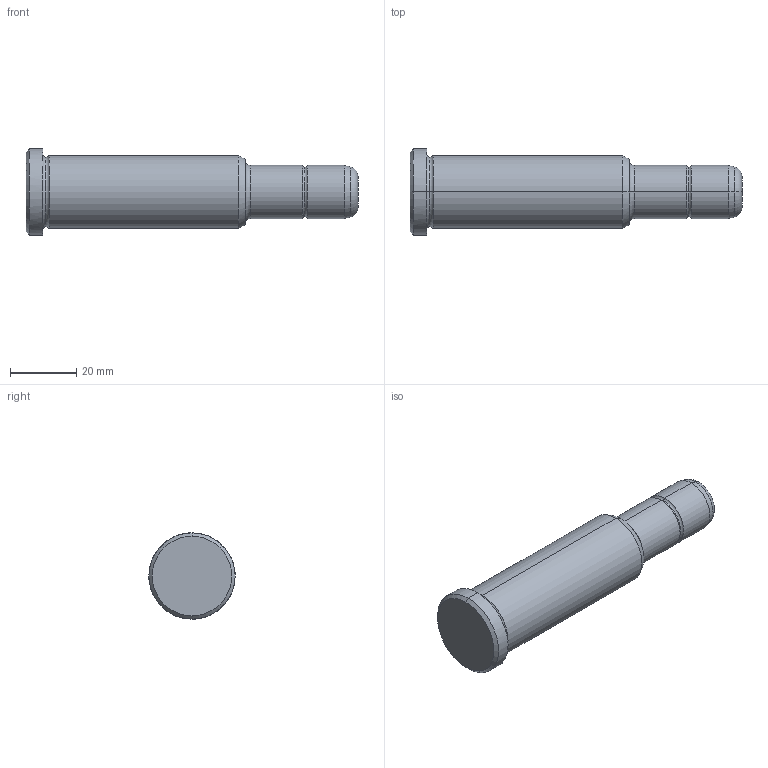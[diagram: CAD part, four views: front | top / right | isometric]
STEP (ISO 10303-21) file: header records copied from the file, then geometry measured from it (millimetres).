
FILE_DESCRIPTION(('CATIA V5 STEP Exchange'),'2;1');
FILE_NAME('C:\Users\Utente\Desktop\IO LAVORO\3D X SITO CF\X SITO\PLASTICA\351\351-16X66X100.stp','2021-08-18T11:46:46+00:00',('none'),('none'),'CATIA Version 5 Release 20 GA (IN-10)','CATIA V5 STEP AP203','none');
FILE_SCHEMA(('CONFIG_CONTROL_DESIGN'));
Length unit declared in the file: millimetre
Products named in the file (1): 351-16X66X100
Bounding box: 100 x 26 x 26 mm (x, y, z)
Volume: 32367.3 mm3; surface area: 7198.5 mm2
Topology: 1 solids, 1 shells, 30 faces, 86 edges, 60 vertices
Faces by surface type: torus 12, cylinder 8, cone 6, plane 4
Entity records: 1112 total; most frequent: CARTESIAN_POINT 289, ORIENTED_EDGE 172, DIRECTION 138, AXIS2_PLACEMENT_3D 95, EDGE_CURVE 86, CIRCLE 64, VERTEX_POINT 60, EDGE_LOOP 32
